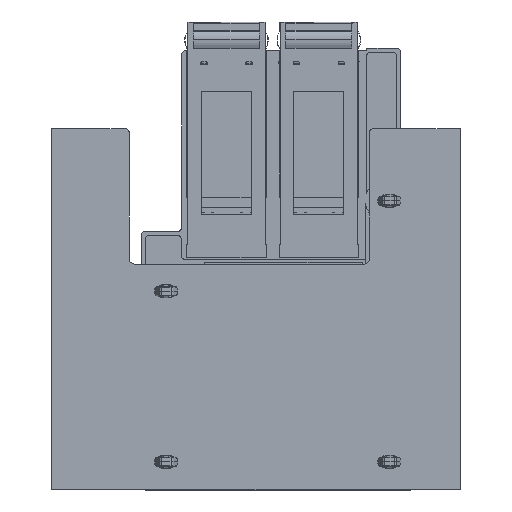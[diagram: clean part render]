
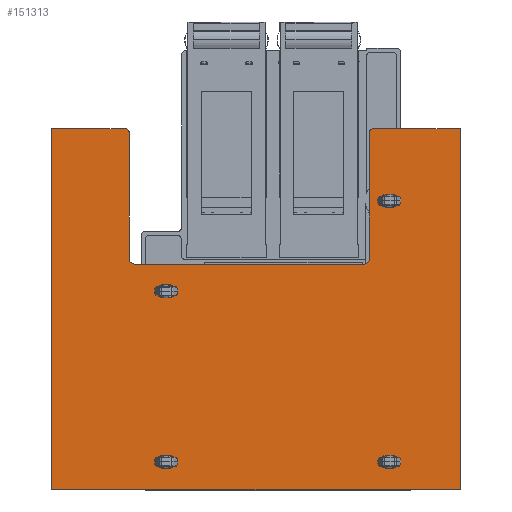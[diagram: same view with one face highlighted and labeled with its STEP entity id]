
A CAD part, front view. The second image highlights one B-rep face of the part: STEP entity #151313.
In plain terms, the highlighted planar face has unit normal (0, -1, 0).
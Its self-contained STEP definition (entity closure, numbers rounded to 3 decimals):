
#150518=DIRECTION('',(-1.,0.,0.));
#150519=VECTOR('',#150518,1.6);
#150520=CARTESIAN_POINT('',(100.2,-2.16,-465.9));
#150521=LINE('',#150520,#150519);
#150525=CARTESIAN_POINT('',(98.6,-2.16,-467.5));
#150526=DIRECTION('',(0.,-1.,0.));
#150527=DIRECTION('',(0.,0.,1.));
#150528=AXIS2_PLACEMENT_3D('',#150525,#150526,#150527);
#150533=DIRECTION('',(1.,0.,0.));
#150534=VECTOR('',#150533,1.6);
#150535=CARTESIAN_POINT('',(98.6,-2.16,-469.1));
#150536=LINE('',#150535,#150534);
#150540=CARTESIAN_POINT('',(100.2,-2.16,-467.5));
#150541=DIRECTION('',(0.,-1.,0.));
#150542=DIRECTION('',(0.,0.,-1.));
#150543=AXIS2_PLACEMENT_3D('',#150540,#150541,#150542);
#150548=DIRECTION('',(1.,0.,0.));
#150549=VECTOR('',#150548,1.6);
#150550=CARTESIAN_POINT('',(98.6,-2.16,-423.4));
#150551=LINE('',#150550,#150549);
#150555=CARTESIAN_POINT('',(98.6,-2.16,-425.));
#150556=DIRECTION('',(0.,1.,0.));
#150557=DIRECTION('',(0.,0.,-1.));
#150558=AXIS2_PLACEMENT_3D('',#150555,#150556,#150557);
#150563=DIRECTION('',(-1.,0.,0.));
#150564=VECTOR('',#150563,1.6);
#150565=CARTESIAN_POINT('',(100.2,-2.16,-426.6));
#150566=LINE('',#150565,#150564);
#150570=CARTESIAN_POINT('',(100.2,-2.16,-425.));
#150571=DIRECTION('',(0.,1.,0.));
#150572=DIRECTION('',(0.,0.,1.));
#150573=AXIS2_PLACEMENT_3D('',#150570,#150571,#150572);
#150578=CARTESIAN_POINT('',(44.6,-2.16,-425.));
#150579=DIRECTION('',(0.,1.,0.));
#150580=DIRECTION('',(0.,0.,1.));
#150581=AXIS2_PLACEMENT_3D('',#150578,#150579,#150580);
#150586=DIRECTION('',(1.,0.,0.));
#150587=VECTOR('',#150586,1.6);
#150588=CARTESIAN_POINT('',(43.,-2.16,-423.4));
#150589=LINE('',#150588,#150587);
#150593=CARTESIAN_POINT('',(43.,-2.16,-425.));
#150594=DIRECTION('',(0.,1.,0.));
#150595=DIRECTION('',(0.,0.,-1.));
#150596=AXIS2_PLACEMENT_3D('',#150593,#150594,#150595);
#150601=DIRECTION('',(-1.,0.,0.));
#150602=VECTOR('',#150601,1.6);
#150603=CARTESIAN_POINT('',(44.6,-2.16,-426.6));
#150604=LINE('',#150603,#150602);
#150608=CARTESIAN_POINT('',(44.6,-2.16,-490.));
#150609=DIRECTION('',(0.,1.,0.));
#150610=DIRECTION('',(0.,0.,1.));
#150611=AXIS2_PLACEMENT_3D('',#150608,#150609,#150610);
#150616=DIRECTION('',(1.,0.,0.));
#150617=VECTOR('',#150616,1.6);
#150618=CARTESIAN_POINT('',(43.,-2.16,-488.4));
#150619=LINE('',#150618,#150617);
#150623=CARTESIAN_POINT('',(43.,-2.16,-490.));
#150624=DIRECTION('',(0.,1.,0.));
#150625=DIRECTION('',(0.,0.,-1.));
#150626=AXIS2_PLACEMENT_3D('',#150623,#150624,#150625);
#150631=DIRECTION('',(-1.,0.,0.));
#150632=VECTOR('',#150631,1.6);
#150633=CARTESIAN_POINT('',(44.6,-2.16,-491.6));
#150634=LINE('',#150633,#150632);
#150638=CARTESIAN_POINT('',(47.77,-2.16,-507.));
#150639=DIRECTION('',(0.,-1.,0.));
#150640=DIRECTION('',(0.,0.,-1.));
#150641=AXIS2_PLACEMENT_3D('',#150638,#150639,#150640);
#150646=DIRECTION('',(1.,0.,0.));
#150647=VECTOR('',#150646,18.25);
#150648=CARTESIAN_POINT('',(109.62,-2.16,-508.));
#150649=LINE('',#150648,#150647);
#150653=CARTESIAN_POINT('',(109.62,-2.16,-507.));
#150654=DIRECTION('',(0.,-1.,0.));
#150655=DIRECTION('',(-1.,0.,0.));
#150656=AXIS2_PLACEMENT_3D('',#150653,#150654,#150655);
#150661=DIRECTION('',(0.,0.,1.));
#150662=VECTOR('',#150661,31.27);
#150663=CARTESIAN_POINT('',(108.62,-2.16,-507.));
#150664=LINE('',#150663,#150662);
#150944=DIRECTION('',(0.,0.,1.));
#150945=VECTOR('',#150944,31.27);
#150946=CARTESIAN_POINT('',(48.77,-2.16,-507.));
#150947=LINE('',#150946,#150945);
#150951=CARTESIAN_POINT('',(50.27,-2.16,-475.73));
#150952=DIRECTION('',(0.,1.,0.));
#150953=DIRECTION('',(-1.,0.,0.));
#150954=AXIS2_PLACEMENT_3D('',#150951,#150952,#150953);
#150988=DIRECTION('',(1.,0.,0.));
#150989=VECTOR('',#150988,56.85);
#150990=CARTESIAN_POINT('',(50.27,-2.16,-474.23));
#150991=LINE('',#150990,#150989);
#150995=CARTESIAN_POINT('',(107.12,-2.16,-475.73));
#150996=DIRECTION('',(0.,1.,0.));
#150997=DIRECTION('',(0.,0.,1.));
#150998=AXIS2_PLACEMENT_3D('',#150995,#150996,#150997);
#151060=DIRECTION('',(0.,0.,-1.));
#151061=VECTOR('',#151060,90.);
#151062=CARTESIAN_POINT('',(127.87,-2.16,-418.));
#151063=LINE('',#151062,#151061);
#151067=DIRECTION('',(1.,0.,0.));
#151068=VECTOR('',#151067,101.72);
#151069=CARTESIAN_POINT('',(26.15,-2.16,-418.));
#151070=LINE('',#151069,#151068);
#151088=DIRECTION('',(0.,0.,1.));
#151089=VECTOR('',#151088,90.);
#151090=CARTESIAN_POINT('',(26.15,-2.16,-508.));
#151091=LINE('',#151090,#151089);
#151109=DIRECTION('',(1.,0.,0.));
#151110=VECTOR('',#151109,21.62);
#151111=CARTESIAN_POINT('',(26.15,-2.16,-508.));
#151112=LINE('',#151111,#151110);
#151130=CARTESIAN_POINT('',(26.15,-2.16,-418.));
#151131=CARTESIAN_POINT('',(127.87,-2.16,-418.));
#151132=VERTEX_POINT('',#151130);
#151133=VERTEX_POINT('',#151131);
#151134=CARTESIAN_POINT('',(26.15,-2.16,-508.));
#151135=VERTEX_POINT('',#151134);
#151136=CARTESIAN_POINT('',(43.,-2.16,-423.4));
#151137=CARTESIAN_POINT('',(44.6,-2.16,-423.4));
#151138=VERTEX_POINT('',#151136);
#151139=VERTEX_POINT('',#151137);
#151140=CARTESIAN_POINT('',(43.,-2.16,-488.4));
#151141=CARTESIAN_POINT('',(44.6,-2.16,-488.4));
#151142=VERTEX_POINT('',#151140);
#151143=VERTEX_POINT('',#151141);
#151150=CARTESIAN_POINT('',(43.,-2.16,-426.6));
#151152=VERTEX_POINT('',#151150);
#151154=CARTESIAN_POINT('',(44.6,-2.16,-426.6));
#151155=VERTEX_POINT('',#151154);
#151160=CARTESIAN_POINT('',(43.,-2.16,-491.6));
#151162=VERTEX_POINT('',#151160);
#151166=CARTESIAN_POINT('',(44.6,-2.16,-491.6));
#151167=VERTEX_POINT('',#151166);
#151168=CARTESIAN_POINT('',(127.87,-2.16,-508.));
#151169=VERTEX_POINT('',#151168);
#151178=CARTESIAN_POINT('',(47.77,-2.16,-508.));
#151179=VERTEX_POINT('',#151178);
#151184=CARTESIAN_POINT('',(48.77,-2.16,-507.));
#151185=VERTEX_POINT('',#151184);
#151190=CARTESIAN_POINT('',(108.62,-2.16,-507.));
#151191=VERTEX_POINT('',#151190);
#151192=CARTESIAN_POINT('',(109.62,-2.16,-508.));
#151193=VERTEX_POINT('',#151192);
#151194=CARTESIAN_POINT('',(107.12,-2.16,-474.23));
#151196=VERTEX_POINT('',#151194);
#151198=CARTESIAN_POINT('',(108.62,-2.16,-475.73));
#151200=VERTEX_POINT('',#151198);
#151202=CARTESIAN_POINT('',(48.77,-2.16,-475.73));
#151204=VERTEX_POINT('',#151202);
#151206=CARTESIAN_POINT('',(50.27,-2.16,-474.23));
#151208=VERTEX_POINT('',#151206);
#151218=CARTESIAN_POINT('',(98.6,-2.16,-423.4));
#151219=CARTESIAN_POINT('',(100.2,-2.16,-423.4));
#151220=VERTEX_POINT('',#151218);
#151221=VERTEX_POINT('',#151219);
#151222=CARTESIAN_POINT('',(98.6,-2.16,-426.6));
#151223=VERTEX_POINT('',#151222);
#151224=CARTESIAN_POINT('',(100.2,-2.16,-426.6));
#151225=VERTEX_POINT('',#151224);
#151234=CARTESIAN_POINT('',(100.2,-2.16,-465.9));
#151235=CARTESIAN_POINT('',(98.6,-2.16,-465.9));
#151236=VERTEX_POINT('',#151234);
#151237=VERTEX_POINT('',#151235);
#151238=CARTESIAN_POINT('',(98.6,-2.16,-469.1));
#151239=VERTEX_POINT('',#151238);
#151240=CARTESIAN_POINT('',(100.2,-2.16,-469.1));
#151241=VERTEX_POINT('',#151240);
#151242=CARTESIAN_POINT('',(0.,-2.16,0.));
#151243=DIRECTION('',(0.,1.,0.));
#151244=DIRECTION('',(0.,0.,1.));
#151245=AXIS2_PLACEMENT_3D('',#151242,#151243,#151244);
#151246=PLANE('',#151245);
#151248=ORIENTED_EDGE('',*,*,#151247,.F.);
#151250=ORIENTED_EDGE('',*,*,#151249,.F.);
#151252=ORIENTED_EDGE('',*,*,#151251,.F.);
#151254=ORIENTED_EDGE('',*,*,#151253,.F.);
#151256=ORIENTED_EDGE('',*,*,#151255,.F.);
#151258=ORIENTED_EDGE('',*,*,#151257,.T.);
#151260=ORIENTED_EDGE('',*,*,#151259,.T.);
#151262=ORIENTED_EDGE('',*,*,#151261,.T.);
#151264=ORIENTED_EDGE('',*,*,#151263,.F.);
#151266=ORIENTED_EDGE('',*,*,#151265,.F.);
#151268=ORIENTED_EDGE('',*,*,#151267,.T.);
#151270=ORIENTED_EDGE('',*,*,#151269,.F.);
#151271=EDGE_LOOP('',(#151248,#151250,#151252,#151254,#151256,#151258,#151260,
#151262,#151264,#151266,#151268,#151270));
#151272=FACE_OUTER_BOUND('',#151271,.F.);
#151274=ORIENTED_EDGE('',*,*,#151273,.F.);
#151276=ORIENTED_EDGE('',*,*,#151275,.F.);
#151278=ORIENTED_EDGE('',*,*,#151277,.F.);
#151280=ORIENTED_EDGE('',*,*,#151279,.F.);
#151281=EDGE_LOOP('',(#151274,#151276,#151278,#151280));
#151282=FACE_BOUND('',#151281,.F.);
#151284=ORIENTED_EDGE('',*,*,#151283,.F.);
#151286=ORIENTED_EDGE('',*,*,#151285,.F.);
#151288=ORIENTED_EDGE('',*,*,#151287,.F.);
#151290=ORIENTED_EDGE('',*,*,#151289,.F.);
#151291=EDGE_LOOP('',(#151284,#151286,#151288,#151290));
#151292=FACE_BOUND('',#151291,.F.);
#151294=ORIENTED_EDGE('',*,*,#151293,.F.);
#151296=ORIENTED_EDGE('',*,*,#151295,.F.);
#151298=ORIENTED_EDGE('',*,*,#151297,.F.);
#151300=ORIENTED_EDGE('',*,*,#151299,.F.);
#151301=EDGE_LOOP('',(#151294,#151296,#151298,#151300));
#151302=FACE_BOUND('',#151301,.F.);
#151304=ORIENTED_EDGE('',*,*,#151303,.T.);
#151306=ORIENTED_EDGE('',*,*,#151305,.T.);
#151308=ORIENTED_EDGE('',*,*,#151307,.T.);
#151310=ORIENTED_EDGE('',*,*,#151309,.T.);
#151311=EDGE_LOOP('',(#151304,#151306,#151308,#151310));
#151312=FACE_BOUND('',#151311,.F.);
#150529=CIRCLE('',#150528,1.6);
#150544=CIRCLE('',#150543,1.6);
#150559=CIRCLE('',#150558,1.6);
#150574=CIRCLE('',#150573,1.6);
#150582=CIRCLE('',#150581,1.6);
#150597=CIRCLE('',#150596,1.6);
#150612=CIRCLE('',#150611,1.6);
#150627=CIRCLE('',#150626,1.6);
#150642=CIRCLE('',#150641,1.);
#150657=CIRCLE('',#150656,1.);
#150955=CIRCLE('',#150954,1.5);
#150999=CIRCLE('',#150998,1.5);
#151247=EDGE_CURVE('',#151208,#151196,#150991,.T.);
#151249=EDGE_CURVE('',#151204,#151208,#150955,.T.);
#151251=EDGE_CURVE('',#151185,#151204,#150947,.T.);
#151253=EDGE_CURVE('',#151179,#151185,#150642,.T.);
#151255=EDGE_CURVE('',#151135,#151179,#151112,.T.);
#151257=EDGE_CURVE('',#151135,#151132,#151091,.T.);
#151259=EDGE_CURVE('',#151132,#151133,#151070,.T.);
#151261=EDGE_CURVE('',#151133,#151169,#151063,.T.);
#151263=EDGE_CURVE('',#151193,#151169,#150649,.T.);
#151265=EDGE_CURVE('',#151191,#151193,#150657,.T.);
#151267=EDGE_CURVE('',#151191,#151200,#150664,.T.);
#151269=EDGE_CURVE('',#151196,#151200,#150999,.T.);
#151273=EDGE_CURVE('',#151220,#151221,#150551,.T.);
#151275=EDGE_CURVE('',#151223,#151220,#150559,.T.);
#151277=EDGE_CURVE('',#151225,#151223,#150566,.T.);
#151279=EDGE_CURVE('',#151221,#151225,#150574,.T.);
#151283=EDGE_CURVE('',#151139,#151155,#150582,.T.);
#151285=EDGE_CURVE('',#151138,#151139,#150589,.T.);
#151287=EDGE_CURVE('',#151152,#151138,#150597,.T.);
#151289=EDGE_CURVE('',#151155,#151152,#150604,.T.);
#151293=EDGE_CURVE('',#151143,#151167,#150612,.T.);
#151295=EDGE_CURVE('',#151142,#151143,#150619,.T.);
#151297=EDGE_CURVE('',#151162,#151142,#150627,.T.);
#151299=EDGE_CURVE('',#151167,#151162,#150634,.T.);
#151303=EDGE_CURVE('',#151236,#151237,#150521,.T.);
#151305=EDGE_CURVE('',#151237,#151239,#150529,.T.);
#151307=EDGE_CURVE('',#151239,#151241,#150536,.T.);
#151309=EDGE_CURVE('',#151241,#151236,#150544,.T.);
#151313=ADVANCED_FACE('',(#151272,#151282,#151292,#151302,#151312),#151246,.F.);
